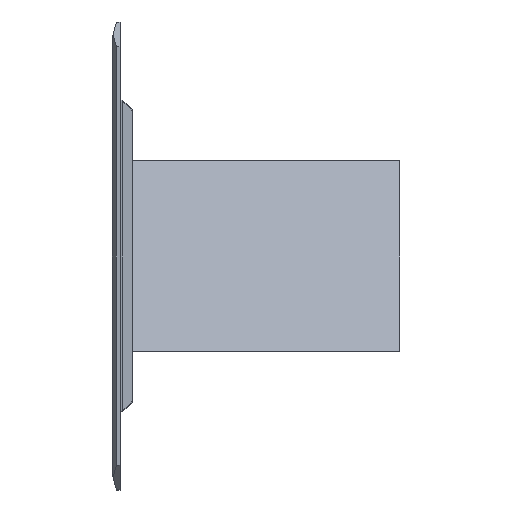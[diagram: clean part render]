
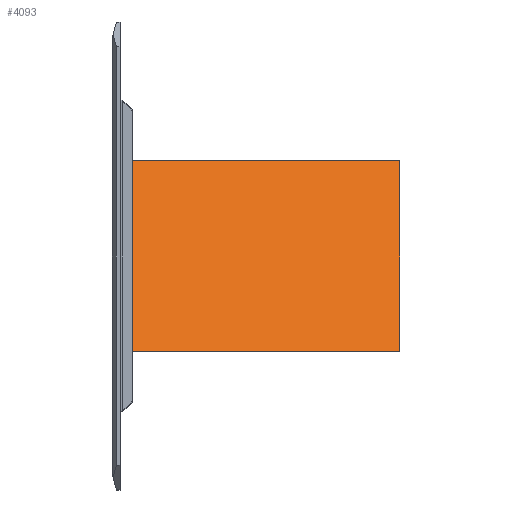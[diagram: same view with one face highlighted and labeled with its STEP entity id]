
A CAD part, left-side view. The second image highlights one B-rep face of the part: STEP entity #4093.
In plain terms, the highlighted planar face has unit normal (-0.866, 0, 0.5) as drawn and (1, 0, 0) by its records, which use the part's own axes.
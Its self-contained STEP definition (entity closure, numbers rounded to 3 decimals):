
#26 = ORIENTED_EDGE ( 'NONE', *, *, #1071, .F. ) ;
#245 = LINE ( 'NONE', #2976, #5369 ) ;
#333 = FACE_OUTER_BOUND ( 'NONE', #5709, .T. ) ;
#410 = VERTEX_POINT ( 'NONE', #5114 ) ;
#647 = DIRECTION ( 'NONE',  ( 0., -1., 0. ) ) ;
#1071 = EDGE_CURVE ( 'NONE', #410, #3634, #5921, .T. ) ;
#1349 = VECTOR ( 'NONE', #2396, 1000. ) ;
#1422 = CARTESIAN_POINT ( 'NONE',  ( 52., -342.5, -311.77 ) ) ;
#1495 = ORIENTED_EDGE ( 'NONE', *, *, #6873, .T. ) ;
#1611 = ORIENTED_EDGE ( 'NONE', *, *, #2665, .F. ) ;
#1635 = CARTESIAN_POINT ( 'NONE',  ( 52., 342.5, 251.726 ) ) ;
#2254 = DIRECTION ( 'NONE',  ( 0., 0., -1. ) ) ;
#2396 = DIRECTION ( 'NONE',  ( 0., -1., 0. ) ) ;
#2665 = EDGE_CURVE ( 'NONE', #3634, #6792, #5688, .T. ) ;
#2798 = VECTOR ( 'NONE', #2254, 1000. ) ;
#2976 = CARTESIAN_POINT ( 'NONE',  ( 52., -342.5, -311.77 ) ) ;
#3075 = DIRECTION ( 'NONE',  ( 0., 0., -1. ) ) ;
#3320 = VERTEX_POINT ( 'NONE', #4639 ) ;
#3634 = VERTEX_POINT ( 'NONE', #6521 ) ;
#4056 = AXIS2_PLACEMENT_3D ( 'NONE', #7537, #8200, #5984 ) ;
#4093 = ADVANCED_FACE ( 'NONE', ( #333 ), #5182, .F. ) ;
#4639 = CARTESIAN_POINT ( 'NONE',  ( 52., -342.5, 251.726 ) ) ;
#4669 = EDGE_CURVE ( 'NONE', #410, #3320, #7344, .T. ) ;
#4857 = VECTOR ( 'NONE', #647, 1000. ) ;
#5114 = CARTESIAN_POINT ( 'NONE',  ( 52., 342.5, 251.726 ) ) ;
#5182 = PLANE ( 'NONE',  #4056 ) ;
#5369 = VECTOR ( 'NONE', #3075, 1000. ) ;
#5688 = LINE ( 'NONE', #7060, #4857 ) ;
#5709 = EDGE_LOOP ( 'NONE', ( #1495, #1611, #26, #6786 ) ) ;
#5921 = LINE ( 'NONE', #8662, #2798 ) ;
#5984 = DIRECTION ( 'NONE',  ( 0., 0., 1. ) ) ;
#6521 = CARTESIAN_POINT ( 'NONE',  ( 52., 342.5, -311.77 ) ) ;
#6786 = ORIENTED_EDGE ( 'NONE', *, *, #4669, .T. ) ;
#6792 = VERTEX_POINT ( 'NONE', #1422 ) ;
#6873 = EDGE_CURVE ( 'NONE', #3320, #6792, #245, .T. ) ;
#7060 = CARTESIAN_POINT ( 'NONE',  ( 52., 342.5, -311.77 ) ) ;
#7344 = LINE ( 'NONE', #1635, #1349 ) ;
#7537 = CARTESIAN_POINT ( 'NONE',  ( 52., 342.5, -311.77 ) ) ;
#8200 = DIRECTION ( 'NONE',  ( -1., 0., 0. ) ) ;
#8662 = CARTESIAN_POINT ( 'NONE',  ( 52., 342.5, -311.77 ) ) ;
